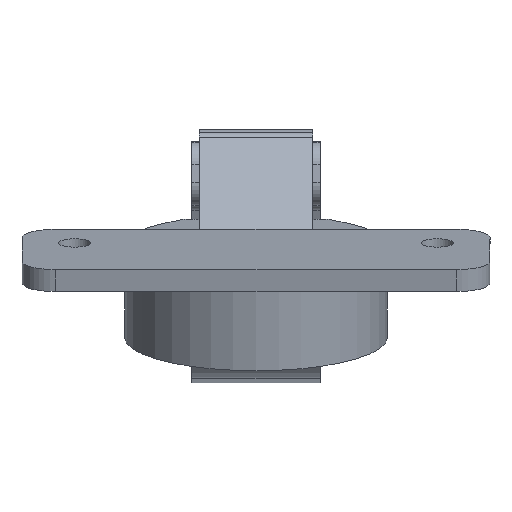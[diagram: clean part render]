
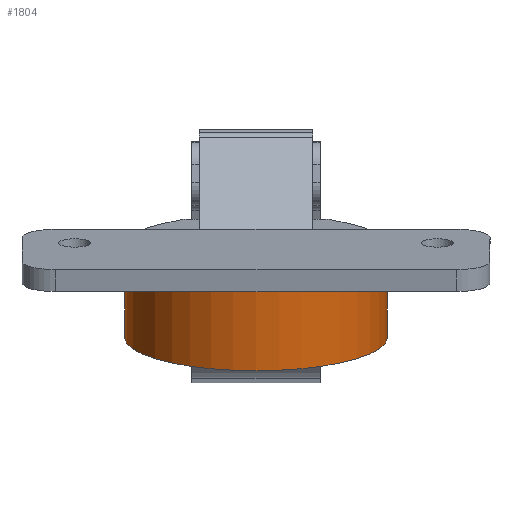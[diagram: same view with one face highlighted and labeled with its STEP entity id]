
A CAD part, top view. The second image highlights one B-rep face of the part: STEP entity #1804.
In plain terms, the highlighted cylindrical face has radius 17.4 mm (diameter 34.8 mm), a partial arc.
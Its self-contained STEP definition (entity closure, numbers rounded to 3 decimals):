
#50 = CIRCLE ( 'NONE', #671, 17.4 ) ;
#82 = CARTESIAN_POINT ( 'NONE',  ( 0., 22.787, 63.173 ) ) ;
#93 = CARTESIAN_POINT ( 'NONE',  ( -17.4, 22.787, 63.173 ) ) ;
#112 = ORIENTED_EDGE ( 'NONE', *, *, #1270, .F. ) ;
#208 = EDGE_CURVE ( 'NONE', #2547, #341, #2285, .T. ) ;
#222 = LINE ( 'NONE', #1675, #2421 ) ;
#238 = DIRECTION ( 'NONE',  ( 0., 0.967, 0.256 ) ) ;
#280 = AXIS2_PLACEMENT_3D ( 'NONE', #2401, #313, #1986 ) ;
#313 = DIRECTION ( 'NONE',  ( 0., -0.967, -0.256 ) ) ;
#314 = VECTOR ( 'NONE', #2053, 1000. ) ;
#341 = VERTEX_POINT ( 'NONE', #695 ) ;
#503 = CIRCLE ( 'NONE', #280, 17.4 ) ;
#594 = EDGE_CURVE ( 'NONE', #2269, #341, #50, .T. ) ;
#671 = AXIS2_PLACEMENT_3D ( 'NONE', #82, #2222, #2451 ) ;
#695 = CARTESIAN_POINT ( 'NONE',  ( 17.4, 22.787, 63.173 ) ) ;
#798 = CARTESIAN_POINT ( 'NONE',  ( 17.4, 11.67, 60.228 ) ) ;
#936 = CARTESIAN_POINT ( 'NONE',  ( 0., 11.574, 60.202 ) ) ;
#943 = ORIENTED_EDGE ( 'NONE', *, *, #208, .T. ) ;
#1187 = EDGE_LOOP ( 'NONE', ( #1623, #943, #2538, #112 ) ) ;
#1270 = EDGE_CURVE ( 'NONE', #2096, #2269, #222, .T. ) ;
#1485 = CARTESIAN_POINT ( 'NONE',  ( -17.4, 11.67, 60.228 ) ) ;
#1486 = EDGE_CURVE ( 'NONE', #2547, #2096, #503, .T. ) ;
#1579 = FACE_OUTER_BOUND ( 'NONE', #1187, .T. ) ;
#1623 = ORIENTED_EDGE ( 'NONE', *, *, #1486, .F. ) ;
#1675 = CARTESIAN_POINT ( 'NONE',  ( -17.4, 11.574, 60.202 ) ) ;
#1778 = DIRECTION ( 'NONE',  ( 0., 0.967, 0.256 ) ) ;
#1804 = ADVANCED_FACE ( 'NONE', ( #1579 ), #2611, .T. ) ;
#1832 = DIRECTION ( 'NONE',  ( -1., 0., 0. ) ) ;
#1986 = DIRECTION ( 'NONE',  ( 0., -0.256, 0.967 ) ) ;
#2053 = DIRECTION ( 'NONE',  ( 0., 0.967, 0.256 ) ) ;
#2096 = VERTEX_POINT ( 'NONE', #1485 ) ;
#2222 = DIRECTION ( 'NONE',  ( 0., 0.967, 0.256 ) ) ;
#2269 = VERTEX_POINT ( 'NONE', #93 ) ;
#2285 = LINE ( 'NONE', #2715, #314 ) ;
#2301 = AXIS2_PLACEMENT_3D ( 'NONE', #936, #1778, #1832 ) ;
#2401 = CARTESIAN_POINT ( 'NONE',  ( 0., 11.67, 60.228 ) ) ;
#2421 = VECTOR ( 'NONE', #238, 1000. ) ;
#2451 = DIRECTION ( 'NONE',  ( -1., 0., 0. ) ) ;
#2538 = ORIENTED_EDGE ( 'NONE', *, *, #594, .F. ) ;
#2547 = VERTEX_POINT ( 'NONE', #798 ) ;
#2611 = CYLINDRICAL_SURFACE ( 'NONE', #2301, 17.4 ) ;
#2715 = CARTESIAN_POINT ( 'NONE',  ( 17.4, 11.574, 60.202 ) ) ;
